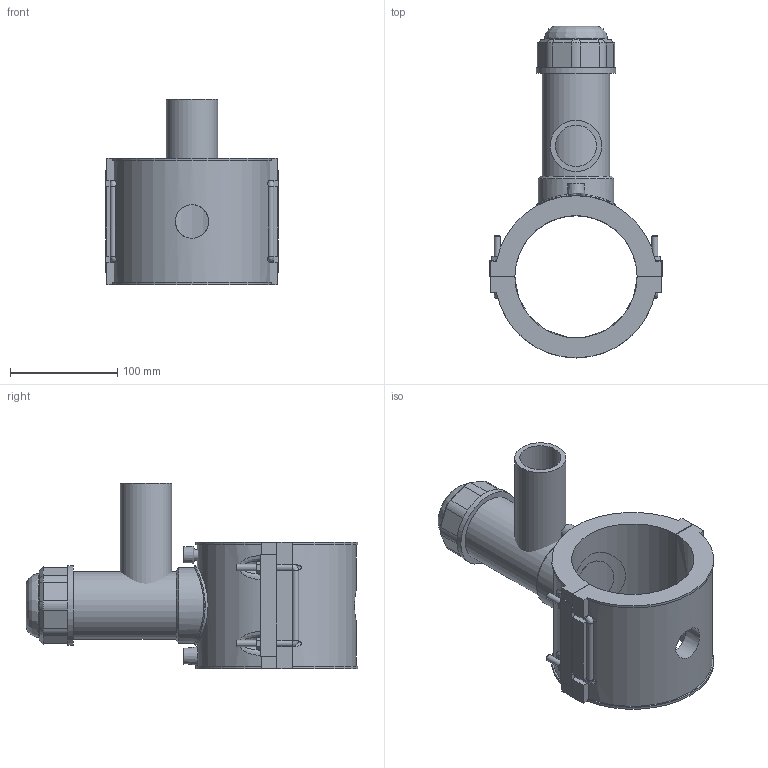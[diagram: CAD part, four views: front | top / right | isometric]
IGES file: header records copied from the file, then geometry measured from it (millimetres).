
Global section: file name: 5963BBP3040015.ipt; native system: Autodesk Inventor 2019; preprocessor: unknown; author: KIM; date: 20210830.101534; units: inch
Bounding box: 161 x 309.74 x 173.1 mm (x, y, z)
Volume: 1274266.7 mm3; surface area: 237211.8 mm2
Topology: 5 solids, 6 shells, 195 faces, 480 edges, 304 vertices
Faces by surface type: plane 112, cylinder 38, revolution 17, cone 15, bspline 13
Full cylindrical faces by diameter (mm): 4 x2, 6 x8, 48.1 x1, 59.332 x1, 63.04 x1, 70.457 x1, 74.165 x2
